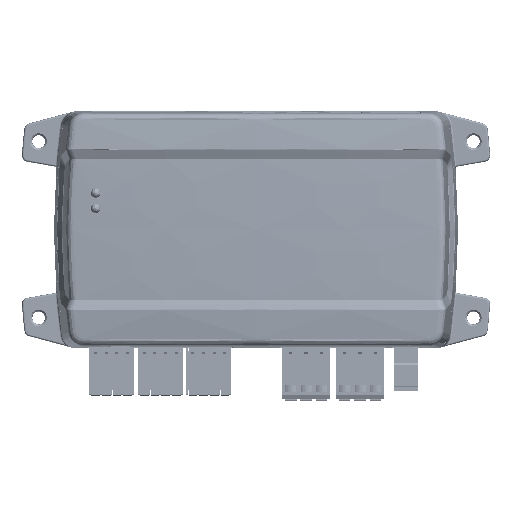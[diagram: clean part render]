
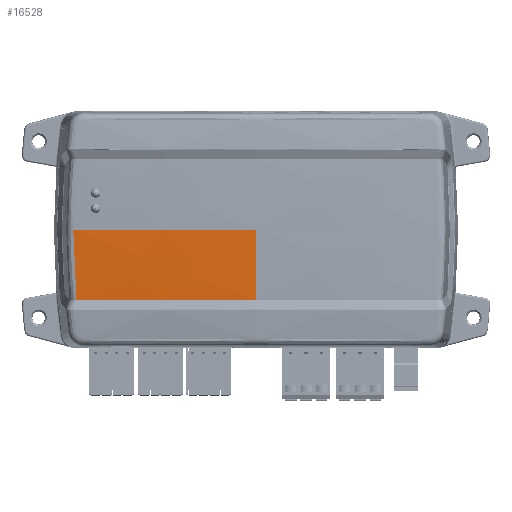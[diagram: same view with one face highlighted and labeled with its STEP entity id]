
A CAD part, top view. The second image highlights one B-rep face of the part: STEP entity #16528.
In plain terms, the highlighted free-form (B-spline) face has degree [3, 3] with [4, 4] control points.
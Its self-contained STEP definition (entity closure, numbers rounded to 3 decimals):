
#7937 = CARTESIAN_POINT ( 'NONE',  ( 0., -23.089, 46.149 ) ) ;
#11966 = CARTESIAN_POINT ( 'NONE',  ( -55.981, -23.114, 44.729 ) ) ;
#16528 = ADVANCED_FACE ( 'NONE', ( #333525 ), #291964, .T. ) ;
#20097 = CARTESIAN_POINT ( 'NONE',  ( 0., 0., 46.5 ) ) ;
#23541 = VERTEX_POINT ( 'NONE', #403552 ) ;
#46774 = CARTESIAN_POINT ( 'NONE',  ( -40.326, -15.506, 45.829 ) ) ;
#69202 = CARTESIAN_POINT ( 'NONE',  ( 0., -23.089, 46.149 ) ) ;
#71092 = CARTESIAN_POINT ( 'NONE',  ( -40.331, 0., 45.948 ) ) ;
#71653 = ORIENTED_EDGE ( 'NONE', *, *, #614253, .F. ) ;
#74880 = EDGE_CURVE ( 'NONE', #571411, #23541, #475788, .T. ) ;
#91429 = CARTESIAN_POINT ( 'NONE',  ( -40.317, -23.256, 45.592 ) ) ;
#113842 = CARTESIAN_POINT ( 'NONE',  ( -56.595, -23.114, 44.698 ) ) ;
#116966 = CARTESIAN_POINT ( 'NONE',  ( -54.137, -23.112, 44.822 ) ) ;
#126147 = CARTESIAN_POINT ( 'NONE',  ( -60.106, 0., 44.864 ) ) ;
#129459 = EDGE_CURVE ( 'NONE', #304702, #506979, #328209, .T. ) ;
#137460 = B_SPLINE_CURVE_WITH_KNOTS ( 'NONE', 3,
 ( #347623, #338191, #538841, #386042 ),
 .UNSPECIFIED., .F., .F.,
 ( 4, 4 ),
 ( 0., 0.994 ),
 .UNSPECIFIED. ) ;
#156732 = CARTESIAN_POINT ( 'NONE',  ( 0., -7.697, 46.5 ) ) ;
#158486 = CARTESIAN_POINT ( 'NONE',  ( -46.759, -23.106, 45.161 ) ) ;
#184770 = B_SPLINE_CURVE_WITH_KNOTS ( 'NONE', 3,
 ( #69202, #257262, #406866, #311227, #355935, #158486, #212527, #409962, #116966, #11966, #113842, #594898, #607385, #499367, #604252, #263462 ),
 .UNSPECIFIED., .F., .F.,
 ( 4, 2, 2, 2, 2, 2, 2, 4 ),
 ( 0., 0.5, 0.75, 0.875, 0.938, 0.969, 0.984, 1. ),
 .UNSPECIFIED. ) ;
#212527 = CARTESIAN_POINT ( 'NONE',  ( -49.219, -23.108, 45.054 ) ) ;
#216444 = CARTESIAN_POINT ( 'NONE',  ( -60.106, 0., 44.864 ) ) ;
#234832 = CARTESIAN_POINT ( 'NONE',  ( 0., -15.506, 46.381 ) ) ;
#237960 = CARTESIAN_POINT ( 'NONE',  ( -60.46, -15.506, 44.726 ) ) ;
#241089 = CARTESIAN_POINT ( 'NONE',  ( -20.166, -7.752, 46.5 ) ) ;
#257262 = CARTESIAN_POINT ( 'NONE',  ( -9.847, -23.089, 46.149 ) ) ;
#263462 = CARTESIAN_POINT ( 'NONE',  ( -59.054, -23.117, 44.569 ) ) ;
#265351 = CARTESIAN_POINT ( 'NONE',  ( -20.166, 0., 46.5 ) ) ;
#291964 = B_SPLINE_SURFACE_WITH_KNOTS ( 'NONE', 3, 3, ( 
 ( #425965, #527869, #91429, #483204 ),
 ( #234832, #480056, #46774, #237960 ),
 ( #578752, #241089, #387591, #581862 ),
 ( #20097, #265351, #71092, #390743 ) ),
 .UNSPECIFIED., .F., .F., .F.,
 ( 4, 4 ),
 ( 4, 4 ),
 ( 0., 1. ),
 ( 0., 1. ),
 .UNSPECIFIED. ) ;
#304702 = VERTEX_POINT ( 'NONE', #7937 ) ;
#311227 = CARTESIAN_POINT ( 'NONE',  ( -34.46, -23.098, 45.622 ) ) ;
#328209 = B_SPLINE_CURVE_WITH_KNOTS ( 'NONE', 3,
 ( #389418, #593125, #156732, #351049 ),
 .UNSPECIFIED., .F., .F.,
 ( 4, 4 ),
 ( 0.007, 1. ),
 .UNSPECIFIED. ) ;
#333525 = FACE_OUTER_BOUND ( 'NONE', #533106, .T. ) ;
#335471 = ORIENTED_EDGE ( 'NONE', *, *, #74880, .T. ) ;
#338191 = CARTESIAN_POINT ( 'NONE',  ( -20.045, 0., 46.5 ) ) ;
#347623 = CARTESIAN_POINT ( 'NONE',  ( 0., 0., 46.5 ) ) ;
#349660 = CARTESIAN_POINT ( 'NONE',  ( 0., 0., 46.5 ) ) ;
#351049 = CARTESIAN_POINT ( 'NONE',  ( 0., 0., 46.5 ) ) ;
#355935 = CARTESIAN_POINT ( 'NONE',  ( -39.38, -23.101, 45.457 ) ) ;
#362969 = CARTESIAN_POINT ( 'NONE',  ( -59.054, -23.117, 44.569 ) ) ;
#386042 = CARTESIAN_POINT ( 'NONE',  ( -60.106, 0., 44.864 ) ) ;
#387591 = CARTESIAN_POINT ( 'NONE',  ( -40.331, -7.752, 45.948 ) ) ;
#389418 = CARTESIAN_POINT ( 'NONE',  ( 0., -23.089, 46.149 ) ) ;
#390743 = CARTESIAN_POINT ( 'NONE',  ( -60.466, 0., 44.844 ) ) ;
#403552 = CARTESIAN_POINT ( 'NONE',  ( -59.054, -23.117, 44.569 ) ) ;
#406866 = CARTESIAN_POINT ( 'NONE',  ( -19.694, -23.091, 46.017 ) ) ;
#409962 = CARTESIAN_POINT ( 'NONE',  ( -52.907, -23.111, 44.881 ) ) ;
#425965 = CARTESIAN_POINT ( 'NONE',  ( 0., -23.256, 46.144 ) ) ;
#464848 = CARTESIAN_POINT ( 'NONE',  ( -60.106, -7.732, 44.864 ) ) ;
#475788 = B_SPLINE_CURVE_WITH_KNOTS ( 'NONE', 3,
 ( #216444, #464848, #605050, #362969 ),
 .UNSPECIFIED., .F., .F.,
 ( 4, 4 ),
 ( 0., 1. ),
 .UNSPECIFIED. ) ;
#480056 = CARTESIAN_POINT ( 'NONE',  ( -20.164, -15.506, 46.381 ) ) ;
#482793 = EDGE_CURVE ( 'NONE', #506979, #571411, #137460, .T. ) ;
#483204 = CARTESIAN_POINT ( 'NONE',  ( -60.446, -23.256, 44.489 ) ) ;
#498783 = ORIENTED_EDGE ( 'NONE', *, *, #129459, .T. ) ;
#499367 = CARTESIAN_POINT ( 'NONE',  ( -58.439, -23.116, 44.601 ) ) ;
#506979 = VERTEX_POINT ( 'NONE', #349660 ) ;
#527869 = CARTESIAN_POINT ( 'NONE',  ( -20.161, -23.256, 46.144 ) ) ;
#533106 = EDGE_LOOP ( 'NONE', ( #335471, #71653, #498783, #608379 ) ) ;
#538841 = CARTESIAN_POINT ( 'NONE',  ( -40.09, 0., 45.954 ) ) ;
#571411 = VERTEX_POINT ( 'NONE', #126147 ) ;
#578752 = CARTESIAN_POINT ( 'NONE',  ( 0., -7.752, 46.5 ) ) ;
#581862 = CARTESIAN_POINT ( 'NONE',  ( -60.466, -7.752, 44.844 ) ) ;
#593125 = CARTESIAN_POINT ( 'NONE',  ( 0., -15.395, 46.383 ) ) ;
#594898 = CARTESIAN_POINT ( 'NONE',  ( -57.517, -23.115, 44.65 ) ) ;
#604252 = CARTESIAN_POINT ( 'NONE',  ( -58.746, -23.115, 44.585 ) ) ;
#605050 = CARTESIAN_POINT ( 'NONE',  ( -59.755, -15.439, 44.765 ) ) ;
#607385 = CARTESIAN_POINT ( 'NONE',  ( -57.824, -23.116, 44.634 ) ) ;
#608379 = ORIENTED_EDGE ( 'NONE', *, *, #482793, .T. ) ;
#614253 = EDGE_CURVE ( 'NONE', #304702, #23541, #184770, .T. ) ;
